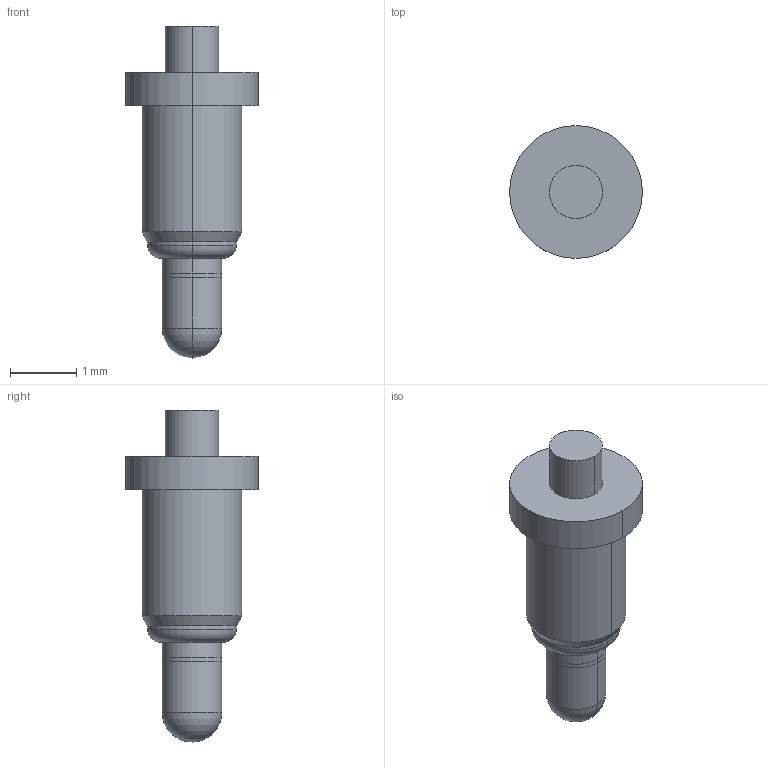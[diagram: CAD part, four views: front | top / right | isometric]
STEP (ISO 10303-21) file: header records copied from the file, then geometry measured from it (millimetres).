
FILE_DESCRIPTION((''),'2;1');
FILE_NAME('PRT0005','2023-05-26T10:40:19',('USER'),(''),'CREO PARAMETRIC BY PTC INC, 2020154','CREO PARAMETRIC BY PTC INC, 2020154','');
FILE_SCHEMA(('CONFIG_CONTROL_DESIGN'));
Length unit declared in the file: millimetre
Products named in the file (1): PRT0005
Bounding box: 2 x 2 x 5 mm (x, y, z)
Volume: 6.7 mm3; surface area: 24.8 mm2
Topology: 1 solids, 1 shells, 24 faces, 48 edges, 27 vertices
Faces by surface type: cylinder 12, sphere 4, plane 4, torus 2, cone 2
Entity records: 652 total; most frequent: DIRECTION 126, CARTESIAN_POINT 97, ORIENTED_EDGE 92, AXIS2_PLACEMENT_3D 56, EDGE_CURVE 46, CIRCLE 32, VERTEX_POINT 27, EDGE_LOOP 27
